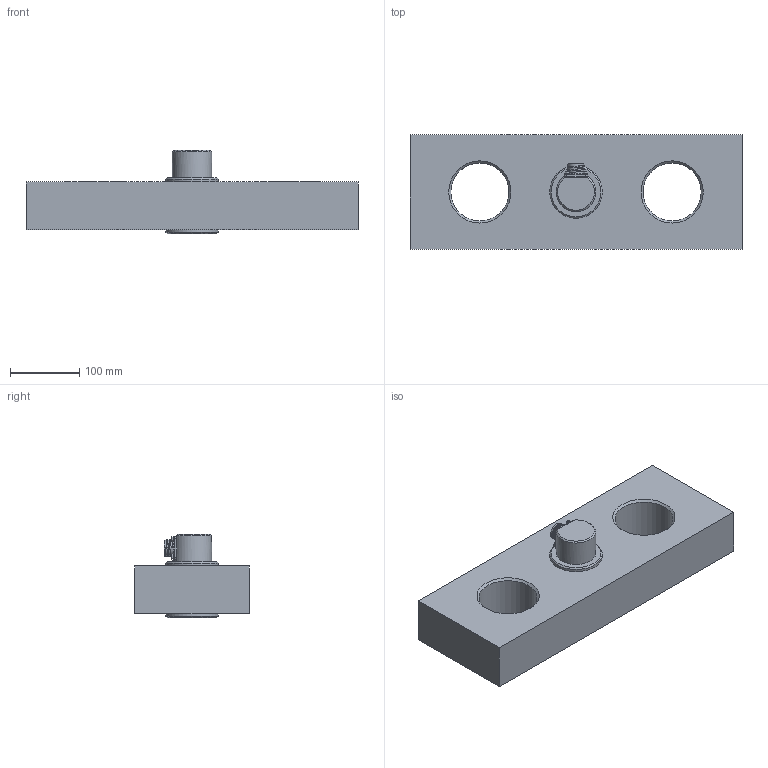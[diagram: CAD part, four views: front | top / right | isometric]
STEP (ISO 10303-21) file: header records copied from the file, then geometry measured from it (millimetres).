
FILE_DESCRIPTION(/* description */ ('Alibre Inc.'),/* implementation_level */ '2;1');
FILE_NAME(/* name */ 'export0',/* time_stamp */ '2018-02-08T09:09:24+00:00',/* author */ (''),/* organization */ (''),/* preprocessor_version */ 'ST-DEVELOPER v14',/* originating_system */ 'Alibre',/* authorisation */ '');
FILE_SCHEMA (('CONFIG_CONTROL_DESIGN'));
Length unit declared in the file: centimetre
Products named in the file (9): ID_1; ID_2; ID_3; ID_4; ID_5; ID_6; ID_7
Bounding box: 480 x 166 x 121 mm (x, y, z)
Volume: 4724357.9 mm3; surface area: 312516.2 mm2
Topology: 23 solids, 23 shells, 624 faces, 1479 edges, 958 vertices
Faces by surface type: plane 331, cylinder 132, bspline 78, cone 76, sphere 6, torus 1
Full cylindrical faces by diameter (mm): 1.448 x6, 1.473 x6, 1.55 x6, 1.613 x6, 2.134 x6, 2.565 x12, 2.59 x12, 3.6 x4, 3.9 x4, 4.83 x4, 7.7 x4, 13.54 x1, 13.65 x1, 13.73 x1, 15.16 x1, 15.2 x1, 15.35 x1, 15.67 x1, 16.12 x1, 17.05 x1, 17.91 x1, 18.6 x2, 20.114 x1, 22.73 x2, 25.05 x3, 25.4 x1, 29.45 x1, 29.65 x2, 30 x1, 54.5 x2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
Entity records: 17089 total; most frequent: CARTESIAN_POINT 4716, ORIENTED_EDGE 2246, DIRECTION 1905, EDGE_CURVE 1123, VERTEX_POINT 814, AXIS2_PLACEMENT_3D 791, FACE_BOUND 777, EDGE_LOOP 776
